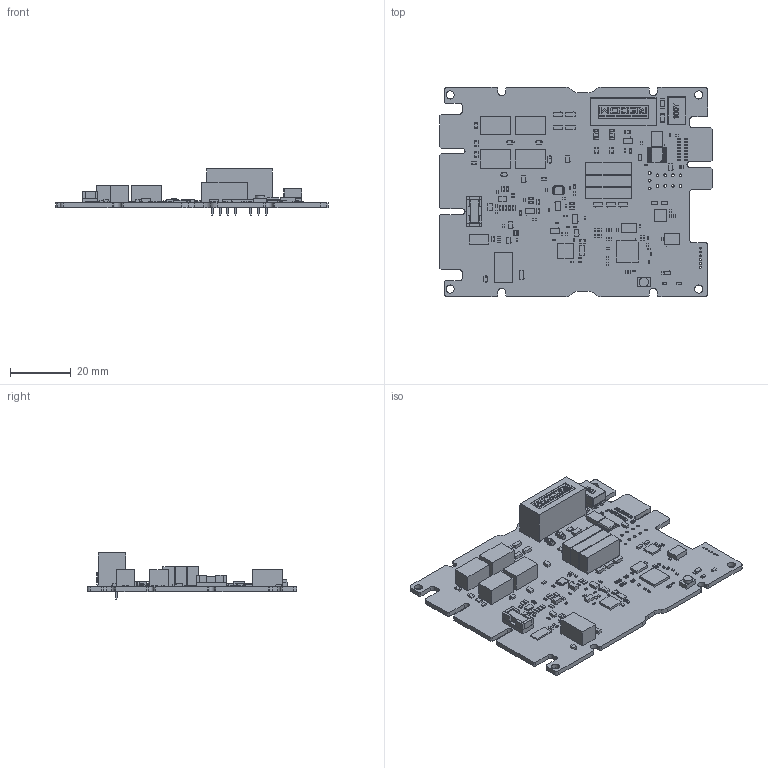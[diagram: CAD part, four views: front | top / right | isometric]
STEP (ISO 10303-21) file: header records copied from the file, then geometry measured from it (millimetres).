
FILE_DESCRIPTION(('Open CASCADE Model'),'2;1');
FILE_NAME('Open CASCADE Shape Model','2026-09-22T11:58:35',('Author'),( 'Open CASCADE'),'Open CASCADE STEP processor 7.5','Open CASCADE 7.5' ,'Unknown');
FILE_SCHEMA(('AUTOMOTIVE_DESIGN { 1 0 10303 214 1 1 1 1 }'));
Length unit declared in the file: millimetre
Products named in the file (481): Open CASCADE STEP translator 7.5 1; Open CASCADE STEP translator 7.5 2; Open CASCADE STEP translator 7.5 3; Open CASCADE STEP translator 7.5 4; Open CASCADE STEP translator 7.5 5; Open CASCADE STEP translator 7.5 6; Open CASCADE STEP translator 7.5 7; Open CASCADE STEP translator 7.5 8; Open CASCADE STEP translator 7.5 9; Open CASCADE STEP translator 7.5 10; Open CASCADE STEP translator 7.5 11; Open CASCADE STEP translator 7.5 12; Open CASCADE STEP translator 7.5 13; Open CASCADE STEP translator 7.5 14; Open CASCADE STEP translator 7.5 15; Open CASCADE STEP translator 7.5 16; Open CASCADE STEP translator 7.5 17; Open CASCADE STEP translator 7.5 18; Open CASCADE STEP translator 7.5 19; Open CASCADE STEP translator 7.5 20; Open CASCADE STEP translator 7.5 21; Open CASCADE STEP translator 7.5 22; Open CASCADE STEP translator 7.5 23; Open CASCADE STEP translator 7.5 24; Open CASCADE STEP translator 7.5 25; Open CASCADE STEP translator 7.5 26; Open CASCADE STEP translator 7.5 27; Open CASCADE STEP translator 7.5 28; Open CASCADE STEP translator 7.5 29; Open CASCADE STEP translator 7.5 30; Open CASCADE STEP translator 7.5 31; Open CASCADE STEP translator 7.5 32; Open CASCADE STEP translator 7.5 33; Open CASCADE STEP translator 7.5 34; Open CASCADE STEP translator 7.5 35; Open CASCADE STEP translator 7.5 36; Open CASCADE STEP translator 7.5 37; Open CASCADE STEP translator 7.5 38; Open CASCADE STEP translator 7.5 39; Open CASCADE STEP translator 7.5 40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
Bounding box: 90 x 69 x 15.2 mm (x, y, z)
Volume: 13361 mm3; surface area: 19891.3 mm2
Topology: 515 solids, 515 shells, 4471 faces, 10178 edges, 6748 vertices
Faces by surface type: plane 4016, cylinder 225, bspline 222, cone 8
Full cylindrical faces by diameter (mm): 0.201 x1, 0.6 x6, 0.9 x30, 1.4 x2, 1.6 x4, 2.7 x4, 3 x1
Entity records: 136585 total; most frequent: CARTESIAN_POINT 24598, ORIENTED_EDGE 20340, DIRECTION 18487, EDGE_CURVE 10170, LINE 9119, VECTOR 9119, VERTEX_POINT 6748, AXIS2_PLACEMENT_3D 4684
